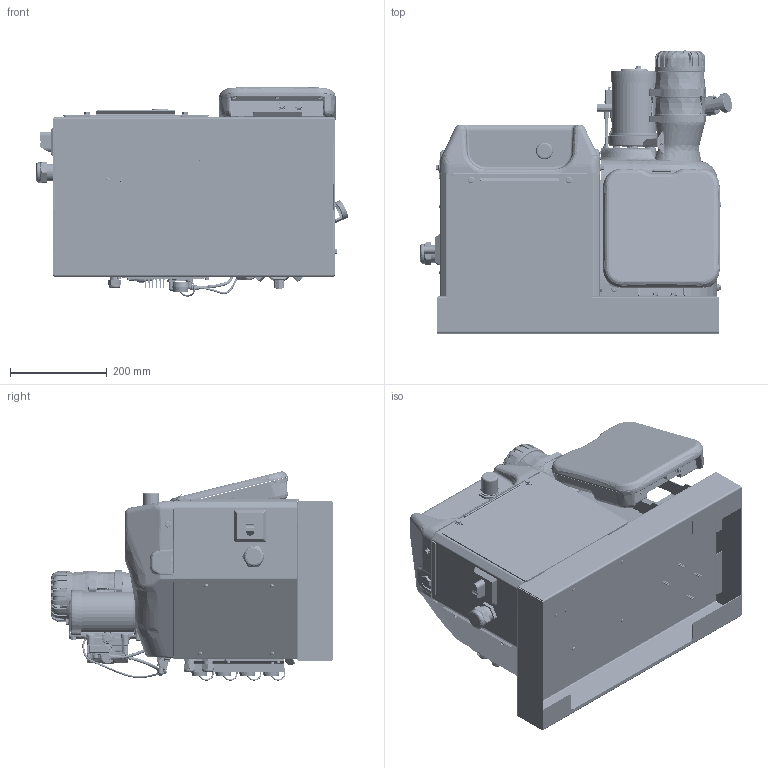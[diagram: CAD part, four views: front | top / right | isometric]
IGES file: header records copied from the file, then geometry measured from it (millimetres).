
Start section:  PTC IGES file: 25c700-en-n.igs
Global section: file name: 25c700-en-n.igs; native system: Creo Parametric by PTC Inc.; preprocessor: 2019030; author: qusrh3; organization: Unknown; date: 20191231.193234; units: inch
Bounding box: 646.17 x 586.23 x 433.64 mm (x, y, z)
Surface area: 4000675.9 mm2 (no closed solid volume)
Topology: 0 solids, 0 shells, 8176 faces, 41941 edges, 41897 vertices
Faces by surface type: bspline 4245, revolution 3929, extrusion 2
